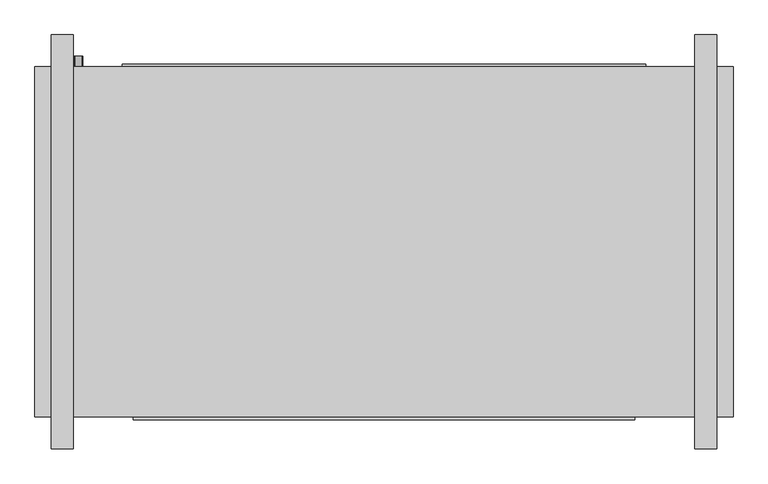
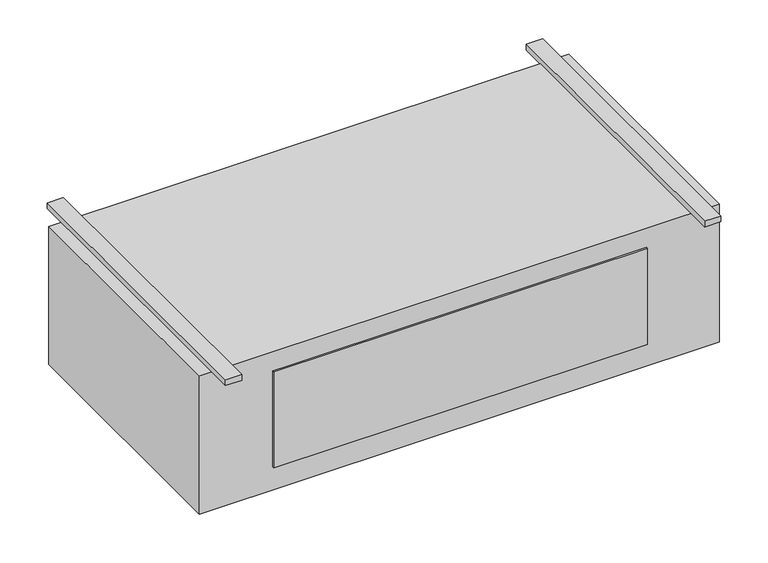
"""IFC4 building model written with IfcOpenShell, lengths in millimetres: proxy geometry, Exposed_High_Capacity_Horizontal_Cabinet_Fan_Coil_Unit_-_42DFA_-_CARRIER_-_4-Pipe_LH_2022 : Size 20 - 277v/60Hz/1Ph - 6/2 Coil."""

from ifc_helpers import new_model, si_unit, point, frame, frame_2d, origin, origin_with_axes, place, context, project, spatial, polyline, circle_curve, trimmed, segment, composite_curve, outline, extrude, source, transform, mapped, element, save


def mechanical_equipment_2fbf0505(model_context):
    return source(origin(), model_context, "Body", "SweptSolid", [
        extrude(outline(composite_curve([segment(trimmed(circle_curve(frame_2d((-406.4, -558.8)), 9.525), [point((-406.4, -568.325))], [point((-406.4, -549.275))], False, "CARTESIAN"), True, "CONTINUOUS"), segment(trimmed(circle_curve(frame_2d((-406.4, -558.8)), 9.525), [point((-406.4, -549.275))], [point((-406.4, -568.325))], False, "CARTESIAN"), True, "CONTINUOUS")], self_intersect=False)), frame((0.0, 169.8625, 0.0), z_axis=(0.0, 1.0, 0.0), x_axis=(0.0, 0.0, 1.0)), (0.0, 0.0, 1.0), 25.4),
        extrude(outline(composite_curve([segment(trimmed(circle_curve(frame_2d((-330.2, -558.8)), 7.9375), [point((-330.2, -566.7375))], [point((-330.2, -550.8625))], False, "CARTESIAN"), True, "CONTINUOUS"), segment(trimmed(circle_curve(frame_2d((-330.2, -558.8)), 7.9375), [point((-330.2, -550.8625))], [point((-330.2, -566.7375))], False, "CARTESIAN"), True, "CONTINUOUS")], self_intersect=False)), frame((0.0, 169.8625, 0.0), z_axis=(0.0, 1.0, 0.0), x_axis=(0.0, 0.0, 1.0)), (0.0, 0.0, 1.0), 25.4),
        extrude(outline(composite_curve([segment(trimmed(circle_curve(frame_2d((-254.0, -558.8)), 7.9375), [point((-254.0, -566.7375))], [point((-254.0, -550.8625))], False, "CARTESIAN"), True, "CONTINUOUS"), segment(trimmed(circle_curve(frame_2d((-254.0, -558.8)), 7.9375), [point((-254.0, -550.8625))], [point((-254.0, -566.7375))], False, "CARTESIAN"), True, "CONTINUOUS")], self_intersect=False)), frame((0.0, 169.8625, 0.0), z_axis=(0.0, 1.0, 0.0), x_axis=(0.0, 0.0, 1.0)), (0.0, 0.0, 1.0), 25.4),
        extrude(outline(composite_curve([segment(trimmed(circle_curve(frame_2d((-177.8, -558.8)), 7.9375), [point((-177.8, -566.7375))], [point((-177.8, -550.8625))], False, "CARTESIAN"), True, "CONTINUOUS"), segment(trimmed(circle_curve(frame_2d((-177.8, -558.8)), 7.9375), [point((-177.8, -550.8625))], [point((-177.8, -566.7375))], False, "CARTESIAN"), True, "CONTINUOUS")], self_intersect=False)), frame((0.0, 169.8625, 0.0), z_axis=(0.0, 1.0, 0.0), x_axis=(0.0, 0.0, 1.0)), (0.0, 0.0, 1.0), 25.4),
        extrude(outline(composite_curve([segment(trimmed(circle_curve(frame_2d((-101.6, -558.8)), 7.9375), [point((-101.6, -566.7375))], [point((-101.6, -550.8625))], False, "CARTESIAN"), True, "CONTINUOUS"), segment(trimmed(circle_curve(frame_2d((-101.6, -558.8)), 7.9375), [point((-101.6, -550.8625))], [point((-101.6, -566.7375))], False, "CARTESIAN"), True, "CONTINUOUS")], self_intersect=False)), frame((0.0, 169.8625, 0.0), z_axis=(0.0, 1.0, 0.0), x_axis=(0.0, 0.0, 1.0)), (0.0, 0.0, 1.0), 25.4),
        extrude(outline(polyline([(965.2, 169.8625), (965.2, -646.1125), (-660.4, -646.1125), (-660.4, 169.8625), (965.2, 169.8625)])), frame((0.0, 0.0, -457.2), z_axis=(0.0, 0.0, 1.0), x_axis=(1.0, 0.0, 0.0)), (0.0, 0.0, 1.0), 457.2),
        extrude(outline(polyline([(-457.2, 176.2125), (762.0, 176.2125), (762.0, 169.8625), (-457.2, 169.8625), (-457.2, 176.2125)])), frame((0.0, 0.0, -381.0), z_axis=(0.0, 0.0, 1.0), x_axis=(1.0, 0.0, 0.0)), (0.0, 0.0, 1.0), 355.6),
        extrude(outline(polyline([(-571.5, 244.475), (-571.5, -720.725), (-622.3, -720.725), (-622.3, 244.475), (-571.5, 244.475)])), origin_with_axes(), (0.0, 0.0, 1.0), 19.05),
        extrude(outline(polyline([(927.1, 244.475), (927.1, -720.725), (876.3, -720.725), (876.3, 244.475), (927.1, 244.475)])), origin_with_axes(), (0.0, 0.0, 1.0), 19.05),
        extrude(outline(polyline([(736.6, -652.4625), (-431.8, -652.4625), (-431.8, -646.1125), (736.6, -646.1125), (736.6, -652.4625)])), frame((0.0, 0.0, -381.0), z_axis=(0.0, 0.0, 1.0), x_axis=(1.0, 0.0, 0.0)), (0.0, 0.0, 1.0), 317.5),
    ])


if __name__ == "__main__":
    model = new_model("IFC4")
    model_context = context("Model", 3, world=origin())
    ifc_project = project(units=[si_unit("LENGTHUNIT", "METRE", prefix="MILLI")], contexts=[model_context])
    site = spatial("IfcSite", under=ifc_project)
    building = spatial("IfcBuilding", under=site)
    placement = place(None, origin())
    mechanical_equipment_shape = mechanical_equipment_2fbf0505(model_context)
    element("IfcBuildingElementProxy", 1, Name="Exposed_High_Capacity_Horizontal_Cabinet_Fan_Coil_Unit_-_42DFA_-_CARRIER_-_4-Pipe_LH_2022 : Size 20 - 277v/60Hz/1Ph - 6/2 Coil", ObjectType="Exposed_High_Capacity_Horizontal_Cabinet_Fan_Coil_Unit_-_42DFA_-_CARRIER_-_4-Pipe_LH_2022 : Size 20 - 277v/60Hz/1Ph - 6/2 Coil", at=placement, inside=building, context=model_context, shape_type="MappedRepresentation", body=[
        mapped(mechanical_equipment_shape, transform((0.0, 0.0, 0.0), x_axis=(1.0, 0.0, 0.0), y_axis=(0.0, 1.0, 0.0), z_axis=(0.0, 0.0, 1.0))),
    ])
    save(model, "model.ifc")
